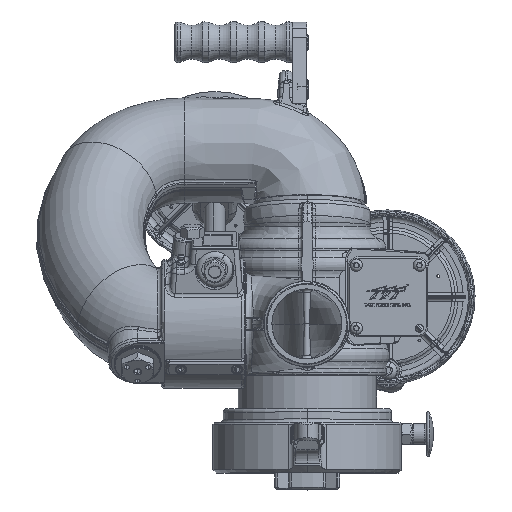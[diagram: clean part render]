
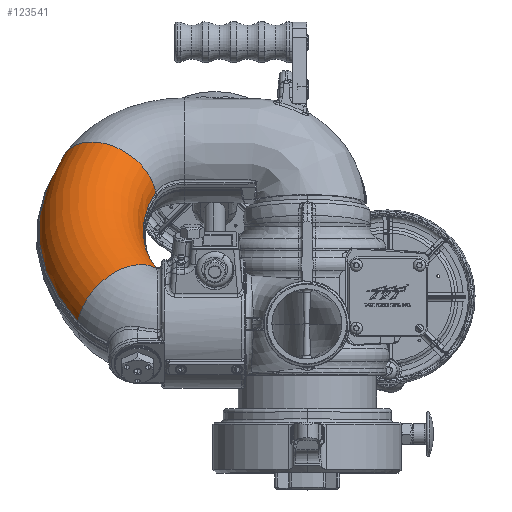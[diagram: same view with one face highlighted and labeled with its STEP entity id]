
A CAD part, top view. The second image highlights one B-rep face of the part: STEP entity #123541.
In plain terms, the highlighted toroidal (fillet/blend) face has major radius 177.8 mm and minor radius 47.625 mm.
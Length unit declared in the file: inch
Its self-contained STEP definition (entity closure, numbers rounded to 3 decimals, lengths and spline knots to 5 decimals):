
#193 = CARTESIAN_POINT ( 'NONE',  ( -5.39928, 3.84554, 5.80264 ) ) ;
#370 = VERTEX_POINT ( 'NONE', #61918 ) ;
#4880 = CARTESIAN_POINT ( 'NONE',  ( -5.39124, 3.83484, 5.73747 ) ) ;
#5521 = CARTESIAN_POINT ( 'NONE',  ( -5.41642, 3.81349, 6.31177 ) ) ;
#8017 = ORIENTED_EDGE ( 'NONE', *, *, #156589, .T. ) ;
#10270 = CARTESIAN_POINT ( 'NONE',  ( -7.10024, 6.84021, 1.12718 ) ) ;
#10322 = AXIS2_PLACEMENT_3D ( 'NONE', #49420, #138049, #62210 ) ;
#12411 = CARTESIAN_POINT ( 'NONE',  ( -5.41975, 3.84606, 6.11226 ) ) ;
#12465 = EDGE_CURVE ( 'NONE', #104123, #370, #55228, .T. ) ;
#15052 = FACE_OUTER_BOUND ( 'NONE', #62978, .T. ) ;
#16003 = CARTESIAN_POINT ( 'NONE',  ( -5.37046, 3.79792, 5.58687 ) ) ;
#20641 = CARTESIAN_POINT ( 'NONE',  ( -0.718, 4.91629, 3.26391 ) ) ;
#21834 = VERTEX_POINT ( 'NONE', #105400 ) ;
#22457 = DIRECTION ( 'NONE',  ( 0., 0.743, 0.669 ) ) ;
#23530 = ORIENTED_EDGE ( 'NONE', *, *, #130167, .T. ) ;
#23559 = DIRECTION ( 'NONE',  ( 0.411, 0.61, -0.678 ) ) ;
#25118 = CARTESIAN_POINT ( 'NONE',  ( -5.41904, 3.8505, 6.06765 ) ) ;
#28749 = CARTESIAN_POINT ( 'NONE',  ( -5.38262, 3.82115, 5.6726 ) ) ;
#32166 = CARTESIAN_POINT ( 'NONE',  ( -5.41745, 3.8233, 6.26025 ) ) ;
#33504 = VERTEX_POINT ( 'NONE', #48105 ) ;
#34361 = AXIS2_PLACEMENT_3D ( 'NONE', #88154, #48829, #124178 ) ;
#36301 = CARTESIAN_POINT ( 'NONE',  ( -5.41642, 3.81349, 6.31177 ) ) ;
#37934 = CARTESIAN_POINT ( 'NONE',  ( -5.41833, 3.85215, 6.04527 ) ) ;
#40457 = CARTESIAN_POINT ( 'NONE',  ( -5.38843, 3.83068, 5.71581 ) ) ;
#43686 = B_SPLINE_CURVE_WITH_KNOTS ( 'NONE', 3,
 ( #5521, #32166, #119731, #43808 ),
 .UNSPECIFIED., .F., .F.,
 ( 4, 4 ),
 ( 0., 0.004 ),
 .UNSPECIFIED. ) ;
#43808 = CARTESIAN_POINT ( 'NONE',  ( -5.41936, 3.83995, 6.15668 ) ) ;
#46231 = DIRECTION ( 'NONE',  ( 0., -0.669, 0.743 ) ) ;
#48105 = CARTESIAN_POINT ( 'NONE',  ( -8.18027, 1.92169, 6.98541 ) ) ;
#48829 = DIRECTION ( 'NONE',  ( 0., -0.743, -0.669 ) ) ;
#49420 = CARTESIAN_POINT ( 'NONE',  ( -6.61621, 2.39384, 6.06538 ) ) ;
#53235 = ORIENTED_EDGE ( 'NONE', *, *, #12465, .T. ) ;
#55228 = CIRCLE ( 'NONE', #34361, 5.14447 ) ;
#61032 = EDGE_CURVE ( 'NONE', #101551, #33504, #102511, .T. ) ;
#61918 = CARTESIAN_POINT ( 'NONE',  ( -5.40846, 6.53053, 1.87393 ) ) ;
#62210 = DIRECTION ( 'NONE',  ( 0., 0.743, 0.669 ) ) ;
#62978 = EDGE_LOOP ( 'NONE', ( #96975, #23530, #53235, #73097, #123618, #8017 ) ) ;
#63458 = CARTESIAN_POINT ( 'NONE',  ( -5.41213, 3.85522, 5.93425 ) ) ;
#64581 = CARTESIAN_POINT ( 'NONE',  ( -0.718, 5.11304, 3.44106 ) ) ;
#66028 = CIRCLE ( 'NONE', #112428, 1.875 ) ;
#67316 = AXIS2_PLACEMENT_3D ( 'NONE', #20641, #96059, #46231 ) ;
#73097 = ORIENTED_EDGE ( 'NONE', *, *, #91789, .F. ) ;
#76018 = CIRCLE ( 'NONE', #10322, 1.875 ) ;
#76199 = DIRECTION ( 'NONE',  ( 0., 0.743, 0.669 ) ) ;
#85315 = CARTESIAN_POINT ( 'NONE',  ( -5.31335, 3.56913, 5.16289 ) ) ;
#85413 = B_SPLINE_CURVE_WITH_KNOTS ( 'NONE', 3,
 ( #164170, #137142, #12411, #25118, #37934, #139350, #63458, #152015, #193, #4880, #40457, #28749, #142406, #16003, #104655, #105197, #155639, #117461, #105742, #93596 ),
 .UNSPECIFIED., .F., .F.,
 ( 4, 2, 2, 2, 2, 2, 2, 2, 2, 4 ),
 ( 0., 0.00171, 0.00342, 0.00683, 0.01025, 0.01195, 0.01366, 0.01708, 0.02049, 0.02732 ),
 .UNSPECIFIED. ) ;
#88154 = CARTESIAN_POINT ( 'NONE',  ( -0.718, 5.1166, 3.44426 ) ) ;
#91789 = EDGE_CURVE ( 'NONE', #101551, #370, #66028, .T. ) ;
#93596 = CARTESIAN_POINT ( 'NONE',  ( -5.31335, 3.56913, 5.16289 ) ) ;
#96059 = DIRECTION ( 'NONE',  ( 0., -0.743, -0.669 ) ) ;
#96975 = ORIENTED_EDGE ( 'NONE', *, *, #160402, .T. ) ;
#101551 = VERTEX_POINT ( 'NONE', #106591 ) ;
#102511 = CIRCLE ( 'NONE', #136138, 8.85622 ) ;
#104123 = VERTEX_POINT ( 'NONE', #85315 ) ;
#104655 = CARTESIAN_POINT ( 'NONE',  ( -5.36419, 3.78367, 5.54475 ) ) ;
#105197 = CARTESIAN_POINT ( 'NONE',  ( -5.35202, 3.75118, 5.46301 ) ) ;
#105400 = CARTESIAN_POINT ( 'NONE',  ( -5.41936, 3.83995, 6.15668 ) ) ;
#105742 = CARTESIAN_POINT ( 'NONE',  ( -5.31998, 3.62431, 5.2331 ) ) ;
#106591 = CARTESIAN_POINT ( 'NONE',  ( -8.79264, 7.54713, 0.73773 ) ) ;
#110504 = VERTEX_POINT ( 'NONE', #36301 ) ;
#112428 = AXIS2_PLACEMENT_3D ( 'NONE', #10270, #23559, #22457 ) ;
#113896 = DIRECTION ( 'NONE',  ( 0., -0.669, 0.743 ) ) ;
#117461 = CARTESIAN_POINT ( 'NONE',  ( -5.3295, 3.6723, 5.30681 ) ) ;
#119731 = CARTESIAN_POINT ( 'NONE',  ( -5.41843, 3.83215, 6.20855 ) ) ;
#123541 = ADVANCED_FACE ( 'NONE', ( #15052 ), #124177, .T. ) ;
#123618 = ORIENTED_EDGE ( 'NONE', *, *, #61032, .T. ) ;
#124177 = TOROIDAL_SURFACE ( 'NONE', #67316, 7., 1.875 ) ;
#124178 = DIRECTION ( 'NONE',  ( 0., -0.669, 0.743 ) ) ;
#130167 = EDGE_CURVE ( 'NONE', #21834, #104123, #85413, .T. ) ;
#136138 = AXIS2_PLACEMENT_3D ( 'NONE', #64581, #76199, #113896 ) ;
#137142 = CARTESIAN_POINT ( 'NONE',  ( -5.41976, 3.84328, 6.1345 ) ) ;
#138049 = DIRECTION ( 'NONE',  ( -0.539, 0.564, -0.626 ) ) ;
#139350 = CARTESIAN_POINT ( 'NONE',  ( -5.41532, 3.85537, 5.97848 ) ) ;
#142406 = CARTESIAN_POINT ( 'NONE',  ( -5.37961, 3.81578, 5.65102 ) ) ;
#152015 = CARTESIAN_POINT ( 'NONE',  ( -5.40411, 3.8503, 5.84634 ) ) ;
#155639 = CARTESIAN_POINT ( 'NONE',  ( -5.34611, 3.73289, 5.42323 ) ) ;
#156589 = EDGE_CURVE ( 'NONE', #33504, #110504, #76018, .T. ) ;
#160402 = EDGE_CURVE ( 'NONE', #110504, #21834, #43686, .T. ) ;
#164170 = CARTESIAN_POINT ( 'NONE',  ( -5.41936, 3.83995, 6.15668 ) ) ;
